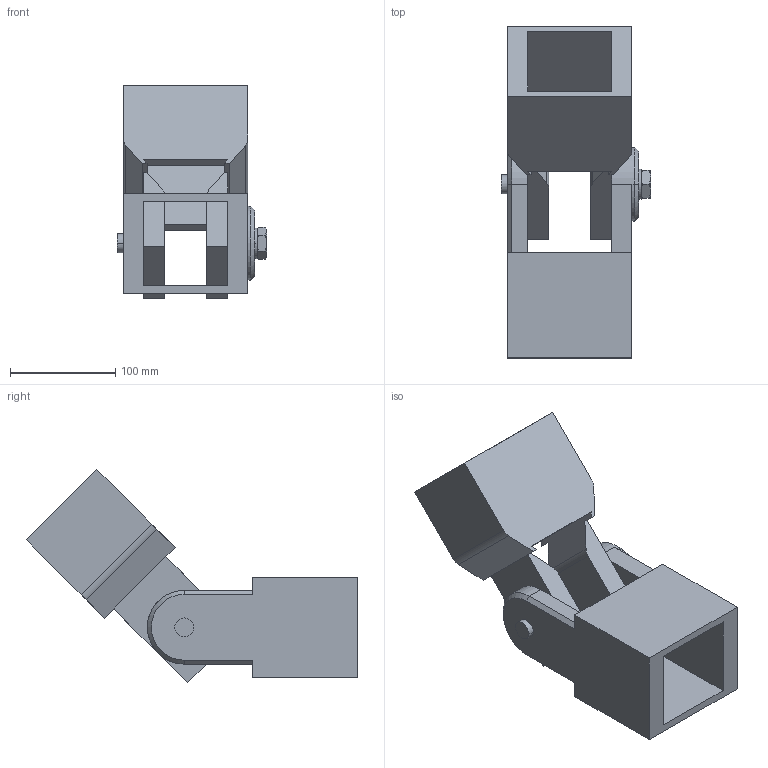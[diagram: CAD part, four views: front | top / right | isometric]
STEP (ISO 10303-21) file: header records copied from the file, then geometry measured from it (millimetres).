
FILE_DESCRIPTION((''),'1');
FILE_NAME('3','2001-04-17T',('jlue'),(''),'PRO/ENGINEER BY PARAMETRIC TECHNOLOGY CORPORATION, 9846','PRO/ENGINEER BY PARAMETRIC TECHNOLOGY CORPORATION, 9846','');
FILE_SCHEMA(('CONFIG_CONTROL_DESIGN'));
Length unit declared in the file: inch
Products named in the file (1): 3
Bounding box: 141.6 x 315.24 x 203.03 mm (x, y, z)
Surface area: 223034.5 mm2 (no closed solid volume)
Topology: 0 solids, 0 shells, 82 faces, 444 edges, 446 vertices
Faces by surface type: plane 56, cone 15, cylinder 11
Entity records: 2325 total; most frequent: COMPOSITE_CURVE_SEGMENT 442, CARTESIAN_POINT 439, DIRECTION 420, TRIMMED_CURVE 205, VECTOR 154, LINE 154, AXIS2_PLACEMENT_3D 133, CURVE_BOUNDED_SURFACE 82
